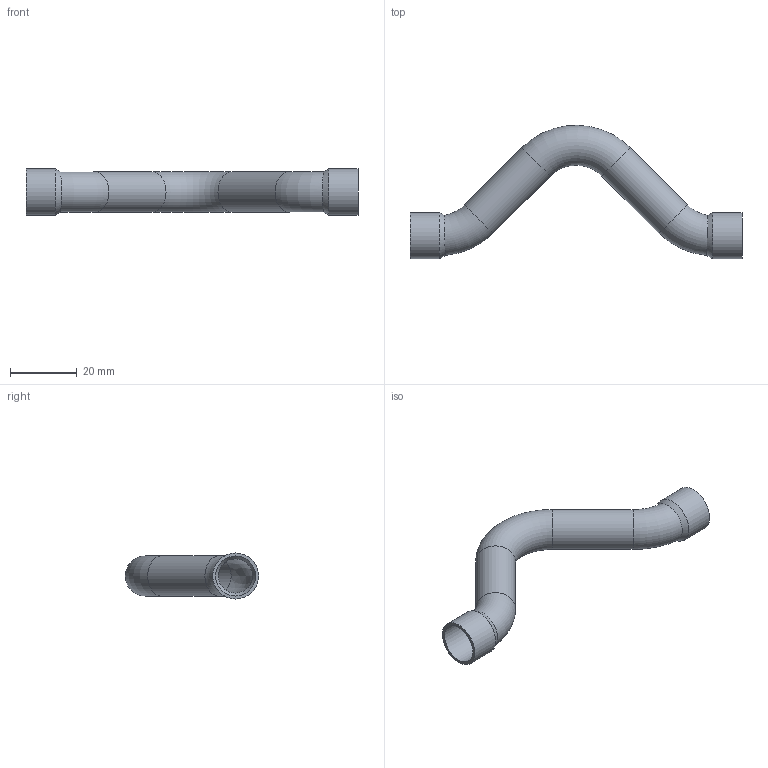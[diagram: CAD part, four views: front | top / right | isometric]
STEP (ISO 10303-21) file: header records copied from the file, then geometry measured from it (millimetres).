
FILE_DESCRIPTION((''),'2;1');
FILE_NAME('G:\SANHA-ESSEN\Entwicklung\Management\__STEP-Dateien_alle Serien\Serie 5000\5130\5130_egal\508512(0).stp','2016-05-09T11:41:42',('lohse'),(''),'Autodesk Inventor 2009','Autodesk Inventor 2009','');
FILE_SCHEMA(('AUTOMOTIVE_DESIGN { 1 0 10303 214 1 1 1 1 }'));
Length unit declared in the file: millimetre
Products named in the file (1): 508512(0)
Bounding box: 99.57 x 39.99 x 13.8 mm (x, y, z)
Volume: 3796.4 mm3; surface area: 8632.4 mm2
Topology: 1 solids, 1 shells, 20 faces, 47 edges, 29 vertices
Faces by surface type: cylinder 8, cone 4, torus 3, bspline 3, plane 2
Full cylindrical faces by diameter (mm): 10.2 x2, 12 x4, 13.8 x2
Entity records: 686 total; most frequent: CARTESIAN_POINT 317, DIRECTION 68, ORIENTED_EDGE 48, EDGE_LOOP 40, AXIS2_PLACEMENT_3D 34, VERTEX_POINT 24, EDGE_CURVE 24, FACE_OUTER_BOUND 20
